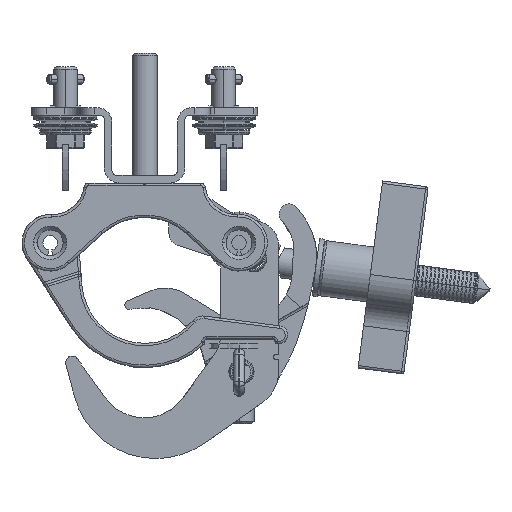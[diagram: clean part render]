
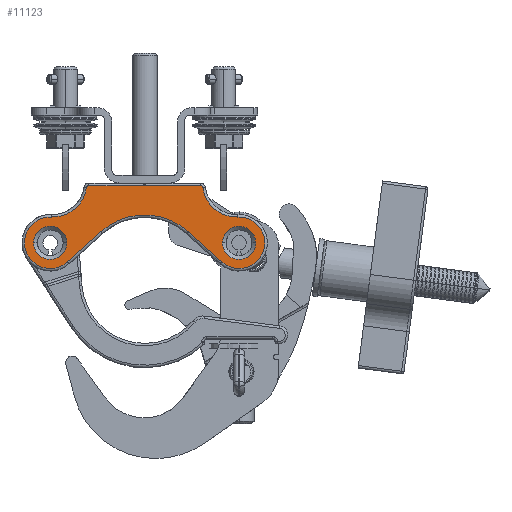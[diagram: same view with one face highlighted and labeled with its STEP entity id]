
A CAD part, front view. The second image highlights one B-rep face of the part: STEP entity #11123.
In plain terms, the highlighted planar face has unit normal (0, -1, 0) as drawn and (0, 0, -1) by its records, which use the part's own axes.
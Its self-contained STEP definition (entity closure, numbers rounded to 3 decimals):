
#8854=CARTESIAN_POINT('',(-37.5,-14.95,-25.));
#8855=DIRECTION('',(0.,0.,-1.));
#8856=DIRECTION('',(1.,0.,0.));
#8857=AXIS2_PLACEMENT_3D('',#8854,#8855,#8856);
#8870=CARTESIAN_POINT('',(-37.5,-14.95,-25.));
#8871=DIRECTION('',(0.,0.,-1.));
#8872=DIRECTION('',(-1.,0.,0.));
#8873=AXIS2_PLACEMENT_3D('',#8870,#8871,#8872);
#10012=DIRECTION('',(-1.,0.,0.));
#10013=VECTOR('',#10012,44.277);
#10014=CARTESIAN_POINT('',(22.138,-37.7,-25.));
#10015=LINE('',#10014,#10013);
#10026=CARTESIAN_POINT('',(22.138,-36.7,-25.));
#10027=DIRECTION('',(0.,0.,-1.));
#10028=DIRECTION('',(0.99,-0.138,0.));
#10029=AXIS2_PLACEMENT_3D('',#10026,#10027,#10028);
#10262=CARTESIAN_POINT('',(36.52,-38.7,-25.));
#10263=DIRECTION('',(0.,0.,1.));
#10264=DIRECTION('',(0.041,0.999,0.));
#10265=AXIS2_PLACEMENT_3D('',#10262,#10263,#10264);
#10286=CARTESIAN_POINT('',(37.5,-14.95,-25.));
#10287=DIRECTION('',(0.,0.,-1.));
#10288=DIRECTION('',(-0.671,0.741,0.));
#10289=AXIS2_PLACEMENT_3D('',#10286,#10287,#10288);
#10310=DIRECTION('',(0.741,0.671,0.));
#10311=VECTOR('',#10310,17.768);
#10312=CARTESIAN_POINT('',(17.449,-19.275,-25.));
#10313=LINE('',#10312,#10311);
#10332=CARTESIAN_POINT('',(0.,0.,-25.));
#10333=DIRECTION('',(0.,0.,1.));
#10334=DIRECTION('',(-0.671,-0.741,0.));
#10335=AXIS2_PLACEMENT_3D('',#10332,#10333,#10334);
#10356=DIRECTION('',(0.741,-0.671,0.));
#10357=VECTOR('',#10356,17.768);
#10358=CARTESIAN_POINT('',(-30.621,-7.351,-25.));
#10359=LINE('',#10358,#10357);
#10378=CARTESIAN_POINT('',(-37.5,-14.95,-25.));
#10379=DIRECTION('',(0.,0.,-1.));
#10380=DIRECTION('',(0.041,-0.999,0.));
#10381=AXIS2_PLACEMENT_3D('',#10378,#10379,#10380);
#10692=CARTESIAN_POINT('',(-22.138,-36.7,-25.));
#10693=DIRECTION('',(0.,0.,-1.));
#10694=DIRECTION('',(0.,-1.,0.));
#10695=AXIS2_PLACEMENT_3D('',#10692,#10693,#10694);
#10716=CARTESIAN_POINT('',(-36.52,-38.7,-25.));
#10717=DIRECTION('',(0.,0.,1.));
#10718=DIRECTION('',(0.99,0.138,0.));
#10719=AXIS2_PLACEMENT_3D('',#10716,#10717,#10718);
#10786=CARTESIAN_POINT('',(37.5,-14.95,-25.));
#10787=DIRECTION('',(0.,0.,-1.));
#10788=DIRECTION('',(1.,0.,0.));
#10789=AXIS2_PLACEMENT_3D('',#10786,#10787,#10788);
#10802=CARTESIAN_POINT('',(37.5,-14.95,-25.));
#10803=DIRECTION('',(0.,0.,-1.));
#10804=DIRECTION('',(-1.,0.,0.));
#10805=AXIS2_PLACEMENT_3D('',#10802,#10803,#10804);
#10944=CARTESIAN_POINT('',(37.077,-25.191,-25.));
#10945=CARTESIAN_POINT('',(23.129,-36.838,-25.));
#10946=VERTEX_POINT('',#10944);
#10947=VERTEX_POINT('',#10945);
#10952=CARTESIAN_POINT('',(22.138,-37.7,-25.));
#10953=VERTEX_POINT('',#10952);
#10956=CARTESIAN_POINT('',(-22.138,-37.7,-25.));
#10957=VERTEX_POINT('',#10956);
#10958=CARTESIAN_POINT('',(-23.129,-36.838,-25.));
#10959=VERTEX_POINT('',#10958);
#10964=CARTESIAN_POINT('',(-37.077,-25.191,-25.));
#10965=VERTEX_POINT('',#10964);
#10968=CARTESIAN_POINT('',(-30.621,-7.351,-25.));
#10969=VERTEX_POINT('',#10968);
#10972=CARTESIAN_POINT('',(-17.449,-19.275,-25.));
#10973=VERTEX_POINT('',#10972);
#10976=CARTESIAN_POINT('',(17.449,-19.275,-25.));
#10977=VERTEX_POINT('',#10976);
#10980=CARTESIAN_POINT('',(30.621,-7.351,-25.));
#10981=VERTEX_POINT('',#10980);
#11068=CARTESIAN_POINT('',(44.1,-14.95,-25.));
#11069=CARTESIAN_POINT('',(30.9,-14.95,-25.));
#11070=VERTEX_POINT('',#11068);
#11071=VERTEX_POINT('',#11069);
#11076=CARTESIAN_POINT('',(-30.9,-14.95,-25.));
#11077=CARTESIAN_POINT('',(-44.1,-14.95,-25.));
#11078=VERTEX_POINT('',#11076);
#11079=VERTEX_POINT('',#11077);
#11084=CARTESIAN_POINT('',(0.,0.,-25.));
#11085=DIRECTION('',(0.,0.,1.));
#11086=DIRECTION('',(1.,0.,0.));
#11087=AXIS2_PLACEMENT_3D('',#11084,#11085,#11086);
#11088=PLANE('',#11087);
#11090=ORIENTED_EDGE('',*,*,#11089,.F.);
#11092=ORIENTED_EDGE('',*,*,#11091,.F.);
#11094=ORIENTED_EDGE('',*,*,#11093,.F.);
#11096=ORIENTED_EDGE('',*,*,#11095,.F.);
#11098=ORIENTED_EDGE('',*,*,#11097,.F.);
#11100=ORIENTED_EDGE('',*,*,#11099,.F.);
#11102=ORIENTED_EDGE('',*,*,#11101,.F.);
#11104=ORIENTED_EDGE('',*,*,#11103,.F.);
#11106=ORIENTED_EDGE('',*,*,#11105,.F.);
#11108=ORIENTED_EDGE('',*,*,#11107,.F.);
#11109=EDGE_LOOP('',(#11090,#11092,#11094,#11096,#11098,#11100,#11102,#11104,
#11106,#11108));
#11110=FACE_OUTER_BOUND('',#11109,.F.);
#11112=ORIENTED_EDGE('',*,*,#11111,.T.);
#11114=ORIENTED_EDGE('',*,*,#11113,.T.);
#11115=EDGE_LOOP('',(#11112,#11114));
#11116=FACE_BOUND('',#11115,.F.);
#11118=ORIENTED_EDGE('',*,*,#11117,.T.);
#11120=ORIENTED_EDGE('',*,*,#11119,.T.);
#11121=EDGE_LOOP('',(#11118,#11120));
#11122=FACE_BOUND('',#11121,.F.);
#8858=CIRCLE('',#8857,6.6);
#8874=CIRCLE('',#8873,6.6);
#10030=CIRCLE('',#10029,1.);
#10266=CIRCLE('',#10265,13.52);
#10290=CIRCLE('',#10289,10.25);
#10336=CIRCLE('',#10335,26.);
#10382=CIRCLE('',#10381,10.25);
#10696=CIRCLE('',#10695,1.);
#10720=CIRCLE('',#10719,13.52);
#10790=CIRCLE('',#10789,6.6);
#10806=CIRCLE('',#10805,6.6);
#11089=EDGE_CURVE('',#10946,#10947,#10266,.T.);
#11091=EDGE_CURVE('',#10981,#10946,#10290,.T.);
#11093=EDGE_CURVE('',#10977,#10981,#10313,.T.);
#11095=EDGE_CURVE('',#10973,#10977,#10336,.T.);
#11097=EDGE_CURVE('',#10969,#10973,#10359,.T.);
#11099=EDGE_CURVE('',#10965,#10969,#10382,.T.);
#11101=EDGE_CURVE('',#10959,#10965,#10720,.T.);
#11103=EDGE_CURVE('',#10957,#10959,#10696,.T.);
#11105=EDGE_CURVE('',#10953,#10957,#10015,.T.);
#11107=EDGE_CURVE('',#10947,#10953,#10030,.T.);
#11111=EDGE_CURVE('',#11070,#11071,#10790,.T.);
#11113=EDGE_CURVE('',#11071,#11070,#10806,.T.);
#11117=EDGE_CURVE('',#11078,#11079,#8858,.T.);
#11119=EDGE_CURVE('',#11079,#11078,#8874,.T.);
#11123=ADVANCED_FACE('',(#11110,#11116,#11122),#11088,.F.);
